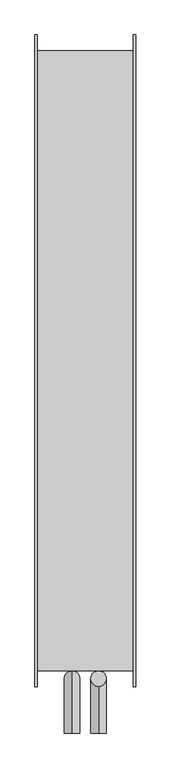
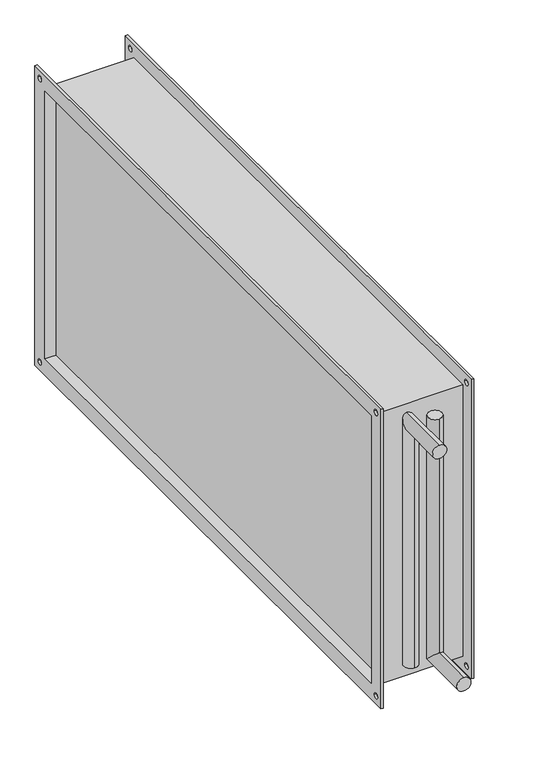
"""IFC4 building model written with IfcOpenShell, lengths in millimetres: proxy geometry, СВ_ВоздухонагревательВодяной_КанальныйПрямоугольный_200-1000_SPH-W : SPH-W-1000x500/2."""

from ifc_helpers import new_model, si_unit, frame, origin, place, context, project, spatial, polyline, circle_curve, ellipse_curve, source, transform, mapped, element, save
from ifc_brep_helpers import plane_surface, cylinder_surface, revolved_surface, advanced_brep


def mechanical_equipment_32570a1a(model_context):
    return source(origin(), model_context, "Body", "AdvancedBrep", [
        advanced_brep(
        [(21.5, -504.0, 225.0), (21.5, -529.0, 225.0), (21.5, -504.0, -237.5), (21.5, -529.0, -212.5), (21.5, -605.0, -237.5), (21.5, -605.0, -212.5)],
        [
            (0, 1, circle_curve(frame((21.5, -516.5, 225.0), z_axis=(0.0, 0.0, 1.0), x_axis=(0.0, -1.0, 0.0)), 12.5)),
            (1, 0, circle_curve(frame((21.5, -516.5, 225.0), z_axis=(0.0, 0.0, 1.0), x_axis=(0.0, -1.0, 0.0)), 12.5)),
            (0, 2),
            (2, 3, ellipse_curve(frame((21.5, -516.5, -225.0), z_axis=(0.0, 0.7071067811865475, 0.7071067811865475), x_axis=(0.0, -0.7071067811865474, 0.7071067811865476)), 17.6776695, 12.5)),
            (3, 1),
            (3, 2, ellipse_curve(frame((21.5, -516.5, -225.0), z_axis=(0.0, 0.7071067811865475, 0.7071067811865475), x_axis=(0.0, -0.7071067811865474, 0.7071067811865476)), 17.6776695, 12.5)),
            (4, 5, circle_curve(frame((21.5, -605.0, -225.0), z_axis=(0.0, -1.0, 0.0), x_axis=(0.0, 0.0, 1.0)), 12.5)),
            (5, 4, circle_curve(frame((21.5, -605.0, -225.0), z_axis=(0.0, -1.0, 0.0), x_axis=(0.0, 0.0, 1.0)), 12.5)),
            (2, 4),
            (5, 3),
        ],
        [
            plane_surface(frame((21.5, -516.5, 225.0), z_axis=(0.0, 0.0, 1.0), x_axis=(-1.0, 0.0, 0.0))),
            cylinder_surface(frame((21.5, -516.5, 225.0), z_axis=(0.0, 0.0, 1.0), x_axis=(0.0, -1.0, 0.0)), 12.5),
            plane_surface(frame((21.5, -605.0, -225.0), z_axis=(0.0, -1.0, 0.0), x_axis=(-1.0, 0.0, 0.0))),
            cylinder_surface(frame((21.5, -516.5, -225.0), z_axis=(0.0, 1.0, 0.0), x_axis=(0.0, 0.0, 1.0)), 12.5),
        ],
        [
            (0, [[1, 2]]),
            (1, [[-1, 3, 4, 5]]),
            (1, [[-2, -5, 6, -3]]),
            (2, [[7, 8]]),
            (3, [[-4, 9, -8, 10]]),
            (3, [[-6, -10, -7, -9]]),
        ],
    ),
        advanced_brep(
        [(-21.5, -504.0, -225.0), (-21.5, -529.0, -225.0), (-21.5, -504.0, 237.5), (-21.5, -529.0, 212.5), (-21.5, -605.0, 237.5), (-21.5, -605.0, 212.5)],
        [
            (0, 1, circle_curve(frame((-21.5, -516.5, -225.0), z_axis=(0.0, 0.0, -1.0), x_axis=(0.0, -1.0, 0.0)), 12.5)),
            (1, 0, circle_curve(frame((-21.5, -516.5, -225.0), z_axis=(0.0, 0.0, -1.0), x_axis=(0.0, -1.0, 0.0)), 12.5)),
            (0, 2),
            (2, 3, ellipse_curve(frame((-21.5, -516.5, 225.0), z_axis=(0.0, 0.7071067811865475, -0.7071067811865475), x_axis=(0.0, -0.7071067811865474, -0.7071067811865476)), 17.6776695, 12.5)),
            (3, 1),
            (3, 2, ellipse_curve(frame((-21.5, -516.5, 225.0), z_axis=(0.0, 0.7071067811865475, -0.7071067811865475), x_axis=(0.0, -0.7071067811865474, -0.7071067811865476)), 17.6776695, 12.5)),
            (4, 5, circle_curve(frame((-21.5, -605.0, 225.0), z_axis=(0.0, -1.0, 0.0), x_axis=(0.0, 0.0, -1.0)), 12.5)),
            (5, 4, circle_curve(frame((-21.5, -605.0, 225.0), z_axis=(0.0, -1.0, 0.0), x_axis=(0.0, 0.0, -1.0)), 12.5)),
            (2, 4),
            (5, 3),
        ],
        [
            plane_surface(frame((-21.5, -516.5, -225.0), z_axis=(0.0, 0.0, -1.0), x_axis=(1.0, 0.0, 0.0))),
            cylinder_surface(frame((-21.5, -516.5, -225.0), z_axis=(0.0, 0.0, -1.0), x_axis=(0.0, -1.0, 0.0)), 12.5),
            plane_surface(frame((-21.5, -605.0, 225.0), z_axis=(0.0, -1.0, 0.0), x_axis=(1.0, 0.0, 0.0))),
            cylinder_surface(frame((-21.5, -516.5, 225.0), z_axis=(0.0, 1.0, 0.0), x_axis=(0.0, 0.0, -1.0)), 12.5),
        ],
        [
            (0, [[1, 2]]),
            (1, [[-1, 3, 4, 5]]),
            (1, [[-2, -5, 6, -3]]),
            (2, [[7, 8]]),
            (3, [[-4, 9, -8, 10]]),
            (3, [[-6, -10, -7, -9]]),
        ],
    ),
        advanced_brep(
        [(-78.0, -504.0, 254.0), (-78.0, -504.0, -254.0), (78.0, -504.0, -254.0), (78.0, -504.0, 254.0), (-78.0, 504.0, -254.0), (78.0, 504.0, -254.0), (-78.0, 504.0, 254.0), (78.0, 504.0, 254.0), (62.0, 500.0, -250.0), (62.0, 500.0, 250.0), (62.0, -500.0, 250.0), (62.0, -500.0, -250.0), (-62.0, -500.0, 250.0), (-62.0, 500.0, 250.0), (-62.0, 500.0, -250.0), (-62.0, -500.0, -250.0), (-82.0, -530.0, 280.0), (-82.0, 530.0, 280.0), (-82.0, 530.0, -280.0), (-82.0, -530.0, -280.0), (-82.0, -500.0, 250.0), (-82.0, -500.0, -250.0), (-82.0, 500.0, -250.0), (-82.0, 500.0, 250.0), (-82.0, 510.0, 265.0), (-82.0, 520.0, 265.0), (-82.0, -520.0, 265.0), (-82.0, -510.0, 265.0), (-82.0, -520.0, -265.0), (-82.0, -510.0, -265.0), (-82.0, 510.0, -265.0), (-82.0, 520.0, -265.0), (-78.0, -530.0, 280.0), (-78.0, -530.0, -280.0), (-78.0, 530.0, -280.0), (-78.0, 530.0, 280.0), (-78.0, 520.0, 265.0), (-78.0, 510.0, 265.0), (-78.0, -510.0, 265.0), (-78.0, -520.0, 265.0), (-78.0, -510.0, -265.0), (-78.0, -520.0, -265.0), (-78.0, 520.0, -265.0), (-78.0, 510.0, -265.0), (78.0, 530.0, 280.0), (78.0, 530.0, -280.0), (78.0, -530.0, -280.0), (78.0, -530.0, 280.0), (78.0, 510.0, 265.0), (78.0, 520.0, 265.0), (78.0, -520.0, 265.0), (78.0, -510.0, 265.0), (78.0, -520.0, -265.0), (78.0, -510.0, -265.0), (78.0, 510.0, -265.0), (78.0, 520.0, -265.0), (82.0, 530.0, 280.0), (82.0, -530.0, 280.0), (82.0, -530.0, -280.0), (82.0, 530.0, -280.0), (82.0, 500.0, 250.0), (82.0, 500.0, -250.0), (82.0, -500.0, -250.0), (82.0, -500.0, 250.0), (82.0, 520.0, 265.0), (82.0, 510.0, 265.0), (82.0, -510.0, 265.0), (82.0, -520.0, 265.0), (82.0, -510.0, -265.0), (82.0, -520.0, -265.0), (82.0, 520.0, -265.0), (82.0, 510.0, -265.0)],
        [
            (0, 1),
            (1, 2),
            (2, 3),
            (3, 0),
            (1, 4),
            (4, 5),
            (5, 2),
            (4, 6),
            (6, 7),
            (7, 5),
            (6, 0),
            (3, 7),
            (8, 9),
            (9, 10),
            (10, 11),
            (11, 8),
            (12, 13),
            (13, 14),
            (14, 15),
            (15, 12),
            (16, 17),
            (17, 18),
            (18, 19),
            (19, 16),
            (20, 21),
            (21, 22),
            (22, 23),
            (23, 20),
            (24, 25, circle_curve(frame((-82.0, 515.0, 265.0), z_axis=(1.0, 0.0, 0.0), x_axis=(0.0, -1.0, 0.0)), 5.0)),
            (25, 24, circle_curve(frame((-82.0, 515.0, 265.0), z_axis=(1.0, 0.0, 0.0), x_axis=(0.0, -1.0, 0.0)), 5.0)),
            (26, 27, circle_curve(frame((-82.0, -515.0, 265.0), z_axis=(1.0, 0.0, 0.0), x_axis=(0.0, -1.0, 0.0)), 5.0)),
            (27, 26, circle_curve(frame((-82.0, -515.0, 265.0), z_axis=(1.0, 0.0, 0.0), x_axis=(0.0, -1.0, 0.0)), 5.0)),
            (28, 29, circle_curve(frame((-82.0, -515.0, -265.0), z_axis=(1.0, 0.0, 0.0), x_axis=(0.0, -1.0, 0.0)), 5.0)),
            (29, 28, circle_curve(frame((-82.0, -515.0, -265.0), z_axis=(1.0, 0.0, 0.0), x_axis=(0.0, -1.0, 0.0)), 5.0)),
            (30, 31, circle_curve(frame((-82.0, 515.0, -265.0), z_axis=(1.0, 0.0, 0.0), x_axis=(0.0, -1.0, 0.0)), 5.0)),
            (31, 30, circle_curve(frame((-82.0, 515.0, -265.0), z_axis=(1.0, 0.0, 0.0), x_axis=(0.0, -1.0, 0.0)), 5.0)),
            (32, 33),
            (33, 34),
            (34, 35),
            (35, 32),
            (36, 37, circle_curve(frame((-78.0, 515.0, 265.0), z_axis=(-1.0, 0.0, 0.0), x_axis=(0.0, -1.0, 0.0)), 5.0)),
            (37, 36, circle_curve(frame((-78.0, 515.0, 265.0), z_axis=(-1.0, 0.0, 0.0), x_axis=(0.0, -1.0, 0.0)), 5.0)),
            (38, 39, circle_curve(frame((-78.0, -515.0, 265.0), z_axis=(-1.0, 0.0, 0.0), x_axis=(0.0, -1.0, 0.0)), 5.0)),
            (39, 38, circle_curve(frame((-78.0, -515.0, 265.0), z_axis=(-1.0, 0.0, 0.0), x_axis=(0.0, -1.0, 0.0)), 5.0)),
            (40, 41, circle_curve(frame((-78.0, -515.0, -265.0), z_axis=(-1.0, 0.0, 0.0), x_axis=(0.0, -1.0, 0.0)), 5.0)),
            (41, 40, circle_curve(frame((-78.0, -515.0, -265.0), z_axis=(-1.0, 0.0, 0.0), x_axis=(0.0, -1.0, 0.0)), 5.0)),
            (42, 43, circle_curve(frame((-78.0, 515.0, -265.0), z_axis=(-1.0, 0.0, 0.0), x_axis=(0.0, -1.0, 0.0)), 5.0)),
            (43, 42, circle_curve(frame((-78.0, 515.0, -265.0), z_axis=(-1.0, 0.0, 0.0), x_axis=(0.0, -1.0, 0.0)), 5.0)),
            (19, 33),
            (32, 16),
            (18, 34),
            (17, 35),
            (44, 45),
            (45, 46),
            (46, 47),
            (47, 44),
            (48, 49, circle_curve(frame((78.0, 515.0, 265.0), z_axis=(1.0, 0.0, 0.0), x_axis=(0.0, -1.0, 0.0)), 5.0)),
            (49, 48, circle_curve(frame((78.0, 515.0, 265.0), z_axis=(1.0, 0.0, 0.0), x_axis=(0.0, -1.0, 0.0)), 5.0)),
            (50, 51, circle_curve(frame((78.0, -515.0, 265.0), z_axis=(1.0, 0.0, 0.0), x_axis=(0.0, -1.0, 0.0)), 5.0)),
            (51, 50, circle_curve(frame((78.0, -515.0, 265.0), z_axis=(1.0, 0.0, 0.0), x_axis=(0.0, -1.0, 0.0)), 5.0)),
            (52, 53, circle_curve(frame((78.0, -515.0, -265.0), z_axis=(1.0, 0.0, 0.0), x_axis=(0.0, -1.0, 0.0)), 5.0)),
            (53, 52, circle_curve(frame((78.0, -515.0, -265.0), z_axis=(1.0, 0.0, 0.0), x_axis=(0.0, -1.0, 0.0)), 5.0)),
            (54, 55, circle_curve(frame((78.0, 515.0, -265.0), z_axis=(1.0, 0.0, 0.0), x_axis=(0.0, -1.0, 0.0)), 5.0)),
            (55, 54, circle_curve(frame((78.0, 515.0, -265.0), z_axis=(1.0, 0.0, 0.0), x_axis=(0.0, -1.0, 0.0)), 5.0)),
            (56, 57),
            (57, 58),
            (58, 59),
            (59, 56),
            (60, 61),
            (61, 62),
            (62, 63),
            (63, 60),
            (64, 65, circle_curve(frame((82.0, 515.0, 265.0), z_axis=(-1.0, 0.0, 0.0), x_axis=(0.0, -1.0, 0.0)), 5.0)),
            (65, 64, circle_curve(frame((82.0, 515.0, 265.0), z_axis=(-1.0, 0.0, 0.0), x_axis=(0.0, -1.0, 0.0)), 5.0)),
            (66, 67, circle_curve(frame((82.0, -515.0, 265.0), z_axis=(-1.0, 0.0, 0.0), x_axis=(0.0, -1.0, 0.0)), 5.0)),
            (67, 66, circle_curve(frame((82.0, -515.0, 265.0), z_axis=(-1.0, 0.0, 0.0), x_axis=(0.0, -1.0, 0.0)), 5.0)),
            (68, 69, circle_curve(frame((82.0, -515.0, -265.0), z_axis=(-1.0, 0.0, 0.0), x_axis=(0.0, -1.0, 0.0)), 5.0)),
            (69, 68, circle_curve(frame((82.0, -515.0, -265.0), z_axis=(-1.0, 0.0, 0.0), x_axis=(0.0, -1.0, 0.0)), 5.0)),
            (70, 71, circle_curve(frame((82.0, 515.0, -265.0), z_axis=(-1.0, 0.0, 0.0), x_axis=(0.0, -1.0, 0.0)), 5.0)),
            (71, 70, circle_curve(frame((82.0, 515.0, -265.0), z_axis=(-1.0, 0.0, 0.0), x_axis=(0.0, -1.0, 0.0)), 5.0)),
            (47, 57),
            (56, 44),
            (46, 58),
            (45, 59),
            (23, 13),
            (12, 20),
            (22, 14),
            (21, 15),
            (60, 9),
            (8, 61),
            (11, 62),
            (10, 63),
            (36, 25),
            (24, 37),
            (64, 49),
            (48, 65),
            (38, 27),
            (26, 39),
            (66, 51),
            (50, 67),
            (40, 29),
            (28, 41),
            (68, 53),
            (52, 69),
            (42, 31),
            (30, 43),
            (70, 55),
            (54, 71),
        ],
        [
            plane_surface(frame((-62.0, -504.0, 254.0), z_axis=(0.0, -1.0, 0.0), x_axis=(-1.0, 0.0, 0.0))),
            plane_surface(frame((-62.0, -504.0, -254.0), z_axis=(0.0, 0.0, -1.0), x_axis=(-1.0, 0.0, 0.0))),
            plane_surface(frame((-62.0, 504.0, -254.0), z_axis=(0.0, 1.0, 0.0), x_axis=(-1.0, 0.0, 0.0))),
            plane_surface(frame((-62.0, 504.0, 254.0), z_axis=(0.0, 0.0, 1.0), x_axis=(-1.0, 0.0, 0.0))),
            plane_surface(frame((62.0, -504.0, 254.0), z_axis=(1.0, 0.0, 0.0), x_axis=(0.0, 0.0, -1.0))),
            plane_surface(frame((-62.0, -504.0, 254.0), z_axis=(-1.0, 0.0, 0.0), x_axis=(0.0, 0.0, 1.0))),
            plane_surface(frame((-82.0, -530.0, 280.0), z_axis=(-1.0, 0.0, 0.0), x_axis=(0.0, 0.0, 1.0))),
            plane_surface(frame((-78.0, -530.0, 280.0), z_axis=(1.0, 0.0, 0.0), x_axis=(0.0, 0.0, -1.0))),
            plane_surface(frame((-78.0, -530.0, 280.0), z_axis=(0.0, -1.0, 0.0), x_axis=(-1.0, 0.0, 0.0))),
            plane_surface(frame((-78.0, -530.0, -280.0), z_axis=(0.0, 0.0, -1.0), x_axis=(-1.0, 0.0, 0.0))),
            plane_surface(frame((-78.0, 530.0, -280.0), z_axis=(0.0, 1.0, 0.0), x_axis=(-1.0, 0.0, 0.0))),
            plane_surface(frame((-78.0, 530.0, 280.0), z_axis=(0.0, 0.0, 1.0), x_axis=(-1.0, 0.0, 0.0))),
            plane_surface(frame((78.0, 500.0, -250.0), z_axis=(-1.0, 0.0, 0.0), x_axis=(0.0, 0.0, 1.0))),
            plane_surface(frame((82.0, 500.0, -250.0), z_axis=(1.0, 0.0, 0.0), x_axis=(0.0, 0.0, -1.0))),
            plane_surface(frame((82.0, 530.0, 280.0), z_axis=(0.0, 0.0, 1.0), x_axis=(-1.0, 0.0, 0.0))),
            plane_surface(frame((82.0, -530.0, 280.0), z_axis=(0.0, -1.0, 0.0), x_axis=(-1.0, 0.0, 0.0))),
            plane_surface(frame((82.0, -530.0, -280.0), z_axis=(0.0, 0.0, -1.0), x_axis=(-1.0, 0.0, 0.0))),
            plane_surface(frame((82.0, 530.0, -280.0), z_axis=(0.0, 1.0, 0.0), x_axis=(-1.0, 0.0, 0.0))),
            plane_surface(frame((-78.0, -500.0, 250.0), z_axis=(0.0, 0.0, -1.0), x_axis=(-1.0, 0.0, 0.0))),
            plane_surface(frame((-78.0, 500.0, 250.0), z_axis=(0.0, -1.0, 0.0), x_axis=(-1.0, 0.0, 0.0))),
            plane_surface(frame((-78.0, 500.0, -250.0), z_axis=(0.0, 0.0, 1.0), x_axis=(-1.0, 0.0, 0.0))),
            plane_surface(frame((-78.0, -500.0, -250.0), z_axis=(0.0, 1.0, 0.0), x_axis=(-1.0, 0.0, 0.0))),
            plane_surface(frame((82.0, 500.0, 250.0), z_axis=(0.0, -1.0, 0.0), x_axis=(-1.0, 0.0, 0.0))),
            plane_surface(frame((82.0, 500.0, -250.0), z_axis=(0.0, 0.0, 1.0), x_axis=(-1.0, 0.0, 0.0))),
            plane_surface(frame((82.0, -500.0, -250.0), z_axis=(0.0, 1.0, 0.0), x_axis=(-1.0, 0.0, 0.0))),
            plane_surface(frame((82.0, -500.0, 250.0), z_axis=(0.0, 0.0, -1.0), x_axis=(-1.0, 0.0, 0.0))),
            revolved_surface(polyline([(-82.0, 510.0, 265.0), (-78.0, 510.0, 265.0)]), (82.0, 515.0, 265.0), (-1.0, 0.0, 0.0)),
            revolved_surface(polyline([(78.0, 510.0, 265.0), (82.0, 510.0, 265.0)]), (82.0, 515.0, 265.0), (-1.0, 0.0, 0.0)),
            revolved_surface(polyline([(-82.0, -520.0, 265.0), (-78.0, -520.0, 265.0)]), (21.5, -515.0, 265.0), (-1.0, 0.0, 0.0)),
            revolved_surface(polyline([(78.0, -520.0, 265.0), (82.0, -520.0, 265.0)]), (21.5, -515.0, 265.0), (-1.0, 0.0, 0.0)),
            revolved_surface(polyline([(-82.0, -520.0, -265.0), (-78.0, -520.0, -265.0)]), (21.5, -515.0, -265.0), (-1.0, 0.0, 0.0)),
            revolved_surface(polyline([(78.0, -520.0, -265.0), (82.0, -520.0, -265.0)]), (21.5, -515.0, -265.0), (-1.0, 0.0, 0.0)),
            revolved_surface(polyline([(-82.0, 510.0, -265.0), (-78.0, 510.0, -265.0)]), (21.5, 515.0, -265.0), (-1.0, 0.0, 0.0)),
            revolved_surface(polyline([(78.0, 510.0, -265.0), (82.0, 510.0, -265.0)]), (21.5, 515.0, -265.0), (-1.0, 0.0, 0.0)),
        ],
        [
            (0, [[1, 2, 3, 4]]),
            (1, [[-2, 5, 6, 7]]),
            (2, [[-6, 8, 9, 10]]),
            (3, [[-9, 11, -4, 12]]),
            (4, [[13, 14, 15, 16]]),
            (5, [[17, 18, 19, 20]]),
            (6, [[21, 22, 23, 24], [25, 26, 27, 28], [29, 30], [31, 32], [33, 34], [35, 36]]),
            (7, [[37, 38, 39, 40], [-1, -11, -8, -5], [41, 42], [43, 44], [45, 46], [47, 48]]),
            (8, [[-24, 49, -37, 50]]),
            (9, [[-23, 51, -38, -49]]),
            (10, [[-22, 52, -39, -51]]),
            (11, [[-21, -50, -40, -52]]),
            (12, [[53, 54, 55, 56], [-3, -7, -10, -12], [57, 58], [59, 60], [61, 62], [63, 64]]),
            (13, [[65, 66, 67, 68], [69, 70, 71, 72], [73, 74], [75, 76], [77, 78], [79, 80]]),
            (14, [[-56, 81, -65, 82]]),
            (15, [[-55, 83, -66, -81]]),
            (16, [[-54, 84, -67, -83]]),
            (17, [[-53, -82, -68, -84]]),
            (18, [[-28, 85, -17, 86]]),
            (19, [[-27, 87, -18, -85]]),
            (20, [[-26, 88, -19, -87]]),
            (21, [[-25, -86, -20, -88]]),
            (22, [[-69, 89, -13, 90]]),
            (23, [[-70, -90, -16, 91]]),
            (24, [[-71, -91, -15, 92]]),
            (25, [[-89, -72, -92, -14]]),
            (26, [[93, -29, 94, -41]]),
            (27, [[95, -57, 96, -73]]),
            (26, [[-93, -42, -94, -30]]),
            (27, [[-95, -74, -96, -58]]),
            (28, [[97, -31, 98, -43]]),
            (29, [[99, -59, 100, -75]]),
            (28, [[-97, -44, -98, -32]]),
            (29, [[-99, -76, -100, -60]]),
            (30, [[101, -33, 102, -45]]),
            (31, [[103, -61, 104, -77]]),
            (30, [[-101, -46, -102, -34]]),
            (31, [[-103, -78, -104, -62]]),
            (32, [[105, -35, 106, -47]]),
            (33, [[107, -63, 108, -79]]),
            (32, [[-105, -48, -106, -36]]),
            (33, [[-107, -80, -108, -64]]),
        ],
    ),
    ])


if __name__ == "__main__":
    model = new_model("IFC4")
    model_context = context("Model", 3, world=origin())
    ifc_project = project(units=[si_unit("LENGTHUNIT", "METRE", prefix="MILLI")], contexts=[model_context])
    site = spatial("IfcSite", under=ifc_project)
    building = spatial("IfcBuilding", under=site)
    placement = place(None, origin())
    mechanical_equipment_shape = mechanical_equipment_32570a1a(model_context)
    element("IfcBuildingElementProxy", 1, Name="СВ_ВоздухонагревательВодяной_КанальныйПрямоугольный_200-1000_SPH-W : SPH-W-1000x500/2", ObjectType="СВ_ВоздухонагревательВодяной_КанальныйПрямоугольный_200-1000_SPH-W : SPH-W-1000x500/2", at=placement, inside=building, context=model_context, shape_type="MappedRepresentation", body=[
        mapped(mechanical_equipment_shape, transform((0.0, 0.0, 0.0), x_axis=(1.0, 0.0, 0.0), y_axis=(0.0, 1.0, 0.0), z_axis=(0.0, 0.0, 1.0))),
    ])
    save(model, "model.ifc")
